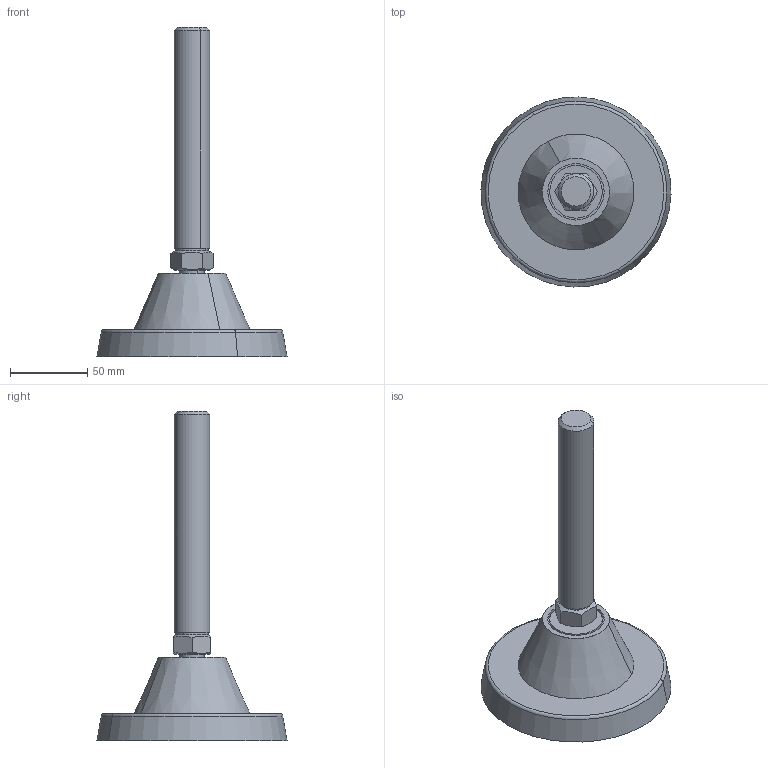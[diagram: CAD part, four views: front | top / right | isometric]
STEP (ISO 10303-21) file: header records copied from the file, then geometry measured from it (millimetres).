
FILE_DESCRIPTION(('CATIA V5 STEP Exchange'),'2;1');
FILE_NAME('C:\Users\ALI OZGUN\Desktop\alhan\ARTICULATED_FEET-PABUCLAR\502122421.stp','2017-09-08T06:28:44+00:00',('none'),('none'),'CATIA Version 5 Release 21 GA (IN-10)','CATIA V5 STEP AP203','none');
FILE_SCHEMA(('CONFIG_CONTROL_DESIGN'));
Length unit declared in the file: millimetre
Products named in the file (1): 502122421
Bounding box: 122.97 x 122.97 x 213 mm (x, y, z)
Volume: 229065.7 mm3; surface area: 75001.4 mm2
Topology: 3 solids, 3 shells, 129 faces, 334 edges, 218 vertices
Faces by surface type: plane 61, cylinder 34, cone 30, torus 2, sphere 2
Entity records: 3887 total; most frequent: CARTESIAN_POINT 1199, ORIENTED_EDGE 668, DIRECTION 336, EDGE_CURVE 334, VERTEX_POINT 218, AXIS2_PLACEMENT_3D 171, EDGE_LOOP 140, ADVANCED_FACE 129
